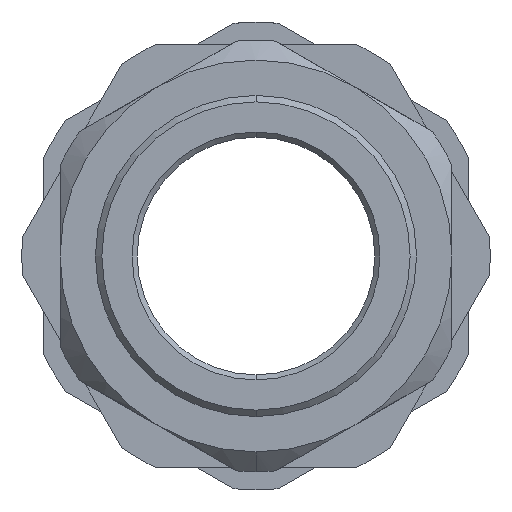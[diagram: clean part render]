
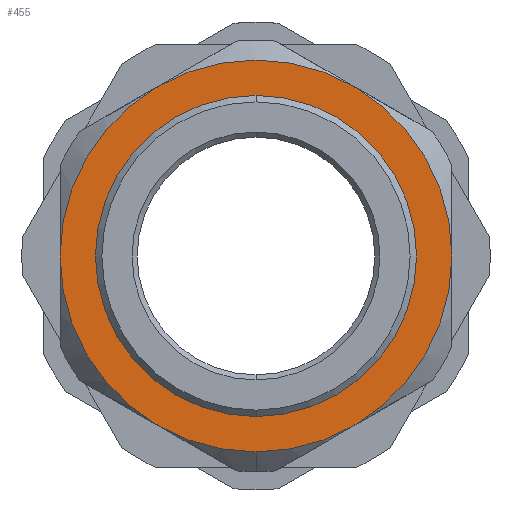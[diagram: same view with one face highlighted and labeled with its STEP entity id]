
A CAD part, front view. The second image highlights one B-rep face of the part: STEP entity #455.
In plain terms, the highlighted planar face has unit normal (0, -1, 0).
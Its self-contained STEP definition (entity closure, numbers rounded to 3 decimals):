
#10 = DIRECTION ( 'NONE',  ( 0., 0., -1. ) ) ;
#11 = DIRECTION ( 'NONE',  ( 0., -1., 0. ) ) ;
#15 = CARTESIAN_POINT ( 'NONE',  ( 0., 1., 0. ) ) ;
#166 = CIRCLE ( 'NONE', #661, 12.5 ) ;
#168 = CIRCLE ( 'NONE', #662, 15.25 ) ;
#169 = CIRCLE ( 'NONE', #660, 15.25 ) ;
#193 = CIRCLE ( 'NONE', #908, 15.25 ) ;
#220 = CIRCLE ( 'NONE', #767, 15.25 ) ;
#226 = CIRCLE ( 'NONE', #883, 12.5 ) ;
#238 = CIRCLE ( 'NONE', #1090, 15.25 ) ;
#249 = CIRCLE ( 'NONE', #1115, 15.25 ) ;
#262 = CIRCLE ( 'NONE', #1102, 15.25 ) ;
#274 = EDGE_CURVE ( 'NONE', #2034, #2087, #262, .T. ) ;
#298 = EDGE_CURVE ( 'NONE', #2081, #2094, #249, .T. ) ;
#323 = EDGE_CURVE ( 'NONE', #2039, #1998, #238, .T. ) ;
#344 = EDGE_CURVE ( 'NONE', #2088, #2050, #226, .T. ) ;
#356 = EDGE_CURVE ( 'NONE', #2046, #2081, #220, .T. ) ;
#414 = EDGE_CURVE ( 'NONE', #2087, #2039, #193, .T. ) ;
#455 = ADVANCED_FACE ( 'NONE', ( #799, #801 ), #1360, .F. ) ;
#511 = EDGE_CURVE ( 'NONE', #1998, #2046, #168, .T. ) ;
#513 = EDGE_CURVE ( 'NONE', #2094, #2034, #169, .T. ) ;
#516 = EDGE_CURVE ( 'NONE', #2050, #2088, #166, .T. ) ;
#535 = CARTESIAN_POINT ( 'NONE',  ( 0., 1., -15.25 ) ) ;
#575 = CARTESIAN_POINT ( 'NONE',  ( 7.625, 1., 13.207 ) ) ;
#660 = AXIS2_PLACEMENT_3D ( 'NONE', #963, #959, #958 ) ;
#661 = AXIS2_PLACEMENT_3D ( 'NONE', #957, #950, #949 ) ;
#662 = AXIS2_PLACEMENT_3D ( 'NONE', #966, #965, #964 ) ;
#767 = AXIS2_PLACEMENT_3D ( 'NONE', #2209, #2205, #2203 ) ;
#796 = AXIS2_PLACEMENT_3D ( 'NONE', #1359, #1358, #1357 ) ;
#799 = FACE_BOUND ( 'NONE', #1777, .T. ) ;
#801 = FACE_OUTER_BOUND ( 'NONE', #1776, .T. ) ;
#883 = AXIS2_PLACEMENT_3D ( 'NONE', #2373, #2372, #2371 ) ;
#908 = AXIS2_PLACEMENT_3D ( 'NONE', #1531, #1693, #1634 ) ;
#949 = DIRECTION ( 'NONE',  ( 0., 0., -1. ) ) ;
#950 = DIRECTION ( 'NONE',  ( 0., -1., 0. ) ) ;
#957 = CARTESIAN_POINT ( 'NONE',  ( 0., 1., 0. ) ) ;
#958 = DIRECTION ( 'NONE',  ( 0., 0., -1. ) ) ;
#959 = DIRECTION ( 'NONE',  ( 0., -1., 0. ) ) ;
#963 = CARTESIAN_POINT ( 'NONE',  ( 0., 1., 0. ) ) ;
#964 = DIRECTION ( 'NONE',  ( 0., 0., -1. ) ) ;
#965 = DIRECTION ( 'NONE',  ( 0., -1., 0. ) ) ;
#966 = CARTESIAN_POINT ( 'NONE',  ( 0., 1., 0. ) ) ;
#1090 = AXIS2_PLACEMENT_3D ( 'NONE', #2217, #2225, #2206 ) ;
#1102 = AXIS2_PLACEMENT_3D ( 'NONE', #15, #11, #10 ) ;
#1115 = AXIS2_PLACEMENT_3D ( 'NONE', #2389, #2401, #2340 ) ;
#1160 = CARTESIAN_POINT ( 'NONE',  ( 15.25, 1., 0. ) ) ;
#1206 = CARTESIAN_POINT ( 'NONE',  ( -7.625, 1., -13.207 ) ) ;
#1212 = CARTESIAN_POINT ( 'NONE',  ( 0., 1., -12.5 ) ) ;
#1213 = CARTESIAN_POINT ( 'NONE',  ( 7.625, 1., -13.207 ) ) ;
#1219 = CARTESIAN_POINT ( 'NONE',  ( -15.25, 1., 0. ) ) ;
#1251 = CARTESIAN_POINT ( 'NONE',  ( 0., 1., 12.5 ) ) ;
#1255 = CARTESIAN_POINT ( 'NONE',  ( -7.625, 1., 13.207 ) ) ;
#1357 = DIRECTION ( 'NONE',  ( 0., 0., 1. ) ) ;
#1358 = DIRECTION ( 'NONE',  ( 0., 1., 0. ) ) ;
#1359 = CARTESIAN_POINT ( 'NONE',  ( -16.8, 1., 0. ) ) ;
#1360 = PLANE ( 'NONE',  #796 ) ;
#1531 = CARTESIAN_POINT ( 'NONE',  ( 0., 1., 0. ) ) ;
#1634 = DIRECTION ( 'NONE',  ( 0., 0., -1. ) ) ;
#1693 = DIRECTION ( 'NONE',  ( 0., -1., 0. ) ) ;
#1776 = EDGE_LOOP ( 'NONE', ( #1929, #1928, #1946, #1927, #1931, #1945, #1939 ) ) ;
#1777 = EDGE_LOOP ( 'NONE', ( #1942, #1930 ) ) ;
#1927 = ORIENTED_EDGE ( 'NONE', *, *, #298, .T. ) ;
#1928 = ORIENTED_EDGE ( 'NONE', *, *, #511, .T. ) ;
#1929 = ORIENTED_EDGE ( 'NONE', *, *, #323, .T. ) ;
#1930 = ORIENTED_EDGE ( 'NONE', *, *, #516, .F. ) ;
#1931 = ORIENTED_EDGE ( 'NONE', *, *, #513, .T. ) ;
#1939 = ORIENTED_EDGE ( 'NONE', *, *, #414, .T. ) ;
#1942 = ORIENTED_EDGE ( 'NONE', *, *, #344, .F. ) ;
#1945 = ORIENTED_EDGE ( 'NONE', *, *, #274, .T. ) ;
#1946 = ORIENTED_EDGE ( 'NONE', *, *, #356, .T. ) ;
#1998 = VERTEX_POINT ( 'NONE', #575 ) ;
#2034 = VERTEX_POINT ( 'NONE', #535 ) ;
#2039 = VERTEX_POINT ( 'NONE', #1160 ) ;
#2046 = VERTEX_POINT ( 'NONE', #1255 ) ;
#2050 = VERTEX_POINT ( 'NONE', #1251 ) ;
#2081 = VERTEX_POINT ( 'NONE', #1219 ) ;
#2087 = VERTEX_POINT ( 'NONE', #1213 ) ;
#2088 = VERTEX_POINT ( 'NONE', #1212 ) ;
#2094 = VERTEX_POINT ( 'NONE', #1206 ) ;
#2203 = DIRECTION ( 'NONE',  ( 0., 0., -1. ) ) ;
#2205 = DIRECTION ( 'NONE',  ( 0., -1., 0. ) ) ;
#2206 = DIRECTION ( 'NONE',  ( 0., 0., -1. ) ) ;
#2209 = CARTESIAN_POINT ( 'NONE',  ( 0., 1., 0. ) ) ;
#2217 = CARTESIAN_POINT ( 'NONE',  ( 0., 1., 0. ) ) ;
#2225 = DIRECTION ( 'NONE',  ( 0., -1., 0. ) ) ;
#2340 = DIRECTION ( 'NONE',  ( 0., 0., -1. ) ) ;
#2371 = DIRECTION ( 'NONE',  ( 0., 0., -1. ) ) ;
#2372 = DIRECTION ( 'NONE',  ( 0., -1., 0. ) ) ;
#2373 = CARTESIAN_POINT ( 'NONE',  ( 0., 1., 0. ) ) ;
#2389 = CARTESIAN_POINT ( 'NONE',  ( 0., 1., 0. ) ) ;
#2401 = DIRECTION ( 'NONE',  ( 0., -1., 0. ) ) ;
